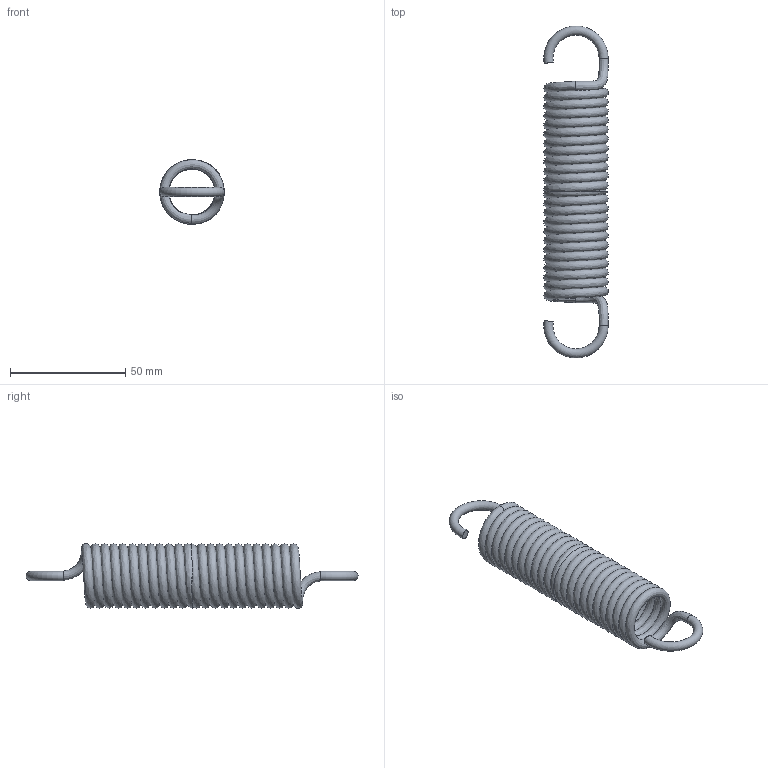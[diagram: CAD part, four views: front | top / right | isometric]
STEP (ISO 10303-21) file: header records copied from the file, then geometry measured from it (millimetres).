
FILE_DESCRIPTION(/* description */ ('469.8 | 6,28 | 0'),/* implementation_level */ '2;1');
FILE_NAME(/* name */ 'T22370.step',/* time_stamp */ '2026-10-05T10:26:06+02:00',/* author */ ('impex-ready.pl'),/* organization */ ('T22370'),/* preprocessor_version */ 'ST-DEVELOPER v20.1',/* originating_system */ 'Autodesk Inventor 2026',/* authorisation */ 'stal nierdzewna');
FILE_SCHEMA (('AUTOMOTIVE_DESIGN { 1 0 10303 214 3 1 1 }'));
Length unit declared in the file: millimetre
Products named in the file (1): T22370
Bounding box: 28 x 143.99 x 28 mm (x, y, z)
Volume: 23431.7 mm3; surface area: 23529.2 mm2
Topology: 1 solids, 1 shells, 10 faces, 34 edges, 22 vertices
Faces by surface type: plane 4, bspline 4, torus 2
Entity records: 5218 total; most frequent: CARTESIAN_POINT 4906, ORIENTED_EDGE 68, DIRECTION 42, EDGE_CURVE 34, VERTEX_POINT 22, AXIS2_PLACEMENT_3D 21, B_SPLINE_CURVE_WITH_KNOTS 20, CIRCLE 14
